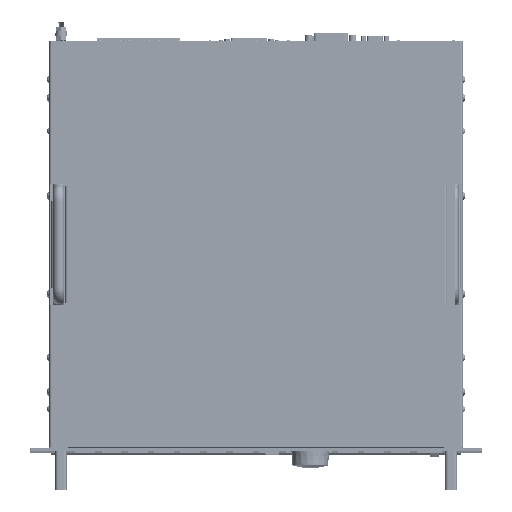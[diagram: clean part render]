
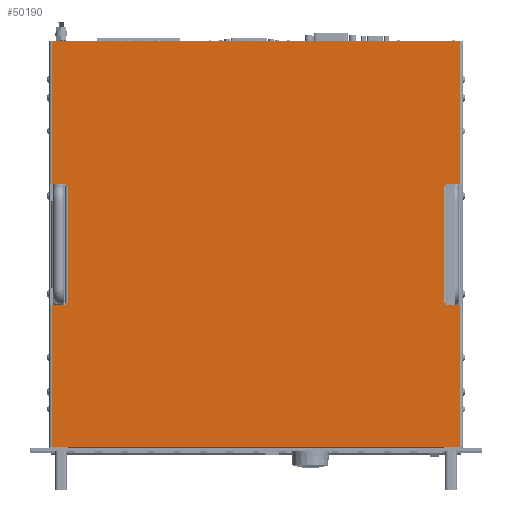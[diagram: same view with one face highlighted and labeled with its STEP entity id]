
A CAD part, top view. The second image highlights one B-rep face of the part: STEP entity #50190.
In plain terms, the highlighted planar face has unit normal (0, 0, 1).
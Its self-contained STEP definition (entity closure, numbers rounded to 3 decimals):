
#50190=ADVANCED_FACE('',(#113177),#113178,.F.);
#113177=FACE_OUTER_BOUND('',#220540,.T.);
#113178=PLANE('',#220541);
#220540=EDGE_LOOP('',(#364750,#364751,#364752,#364753,#364754,#364755,#364756,#364757,#364758,#364759,#364760,#364761,#364762,#364763,#364764,#364765,#364766,#364767,#364768,#364769));
#220541=AXIS2_PLACEMENT_3D('',#364770,#364771,#364772);
#364750=ORIENTED_EDGE('',*,*,#522827,.T.);
#364751=ORIENTED_EDGE('',*,*,#522847,.F.);
#364752=ORIENTED_EDGE('',*,*,#522848,.F.);
#364753=ORIENTED_EDGE('',*,*,#522491,.F.);
#364754=ORIENTED_EDGE('',*,*,#522813,.F.);
#364755=ORIENTED_EDGE('',*,*,#522476,.F.);
#364756=ORIENTED_EDGE('',*,*,#522802,.F.);
#364757=ORIENTED_EDGE('',*,*,#522849,.F.);
#364758=ORIENTED_EDGE('',*,*,#522845,.T.);
#364759=ORIENTED_EDGE('',*,*,#522840,.F.);
#364760=ORIENTED_EDGE('',*,*,#522837,.T.);
#364761=ORIENTED_EDGE('',*,*,#522850,.F.);
#364762=ORIENTED_EDGE('',*,*,#522778,.F.);
#364763=ORIENTED_EDGE('',*,*,#522466,.F.);
#364764=ORIENTED_EDGE('',*,*,#522767,.F.);
#364765=ORIENTED_EDGE('',*,*,#522486,.F.);
#364766=ORIENTED_EDGE('',*,*,#522851,.F.);
#364767=ORIENTED_EDGE('',*,*,#522852,.F.);
#364768=ORIENTED_EDGE('',*,*,#522824,.T.);
#364769=ORIENTED_EDGE('',*,*,#522832,.T.);
#364770=CARTESIAN_POINT('',(241.3,405.265,814.604));
#364771=DIRECTION('',(0.,0.,-1.0));
#364772=DIRECTION('',(1.0,0.,0.));
#522466=EDGE_CURVE('',#626515,#626517,#626518,.T.);
#522476=EDGE_CURVE('',#626533,#626535,#626536,.T.);
#522486=EDGE_CURVE('',#626551,#626553,#626554,.T.);
#522491=EDGE_CURVE('',#626560,#626562,#626563,.T.);
#522767=EDGE_CURVE('',#626553,#626515,#626993,.T.);
#522778=EDGE_CURVE('',#626517,#627008,#627009,.T.);
#522802=EDGE_CURVE('',#627041,#626533,#627043,.T.);
#522813=EDGE_CURVE('',#626535,#626560,#627058,.T.);
#522824=EDGE_CURVE('',#627069,#627072,#627074,.T.);
#522827=EDGE_CURVE('',#627079,#627076,#627080,.T.);
#522832=EDGE_CURVE('',#627072,#627079,#627085,.T.);
#522837=EDGE_CURVE('',#627091,#627089,#627092,.T.);
#522840=EDGE_CURVE('',#627091,#627095,#627096,.T.);
#522845=EDGE_CURVE('',#627101,#627095,#627103,.T.);
#522847=EDGE_CURVE('',#627105,#627076,#627106,.T.);
#522848=EDGE_CURVE('',#626562,#627105,#627107,.T.);
#522849=EDGE_CURVE('',#627101,#627041,#627108,.T.);
#522850=EDGE_CURVE('',#627008,#627089,#627109,.T.);
#522851=EDGE_CURVE('',#627110,#626551,#627111,.T.);
#522852=EDGE_CURVE('',#627069,#627110,#627112,.T.);
#626515=VERTEX_POINT('',#778112);
#626517=VERTEX_POINT('',#778114);
#626518=LINE('',#778115,#778116);
#626533=VERTEX_POINT('',#778134);
#626535=VERTEX_POINT('',#778136);
#626536=LINE('',#778137,#778138);
#626551=VERTEX_POINT('',#778156);
#626553=VERTEX_POINT('',#778158);
#626554=LINE('',#778159,#778160);
#626560=VERTEX_POINT('',#778167);
#626562=VERTEX_POINT('',#778169);
#626563=LINE('',#778170,#778171);
#626993=LINE('',#778722,#778723);
#627008=VERTEX_POINT('',#778743);
#627009=LINE('',#778744,#778745);
#627041=VERTEX_POINT('',#778791);
#627043=LINE('',#778794,#778795);
#627058=LINE('',#778815,#778816);
#627069=VERTEX_POINT('',#778831);
#627072=VERTEX_POINT('',#778835);
#627074=LINE('',#778837,#778838);
#627076=VERTEX_POINT('',#778840);
#627079=VERTEX_POINT('',#778844);
#627080=LINE('',#778845,#778846);
#627085=LINE('',#778851,#778852);
#627089=VERTEX_POINT('',#778857);
#627091=VERTEX_POINT('',#778860);
#627092=LINE('',#778861,#778862);
#627095=VERTEX_POINT('',#778865);
#627096=LINE('',#778866,#778867);
#627101=VERTEX_POINT('',#778872);
#627103=LINE('',#778875,#778876);
#627105=VERTEX_POINT('',#778878);
#627106=LINE('',#778879,#778880);
#627107=LINE('',#778881,#778882);
#627108=LINE('',#778883,#778884);
#627109=LINE('',#778885,#778886);
#627110=VERTEX_POINT('',#778887);
#627111=LINE('',#778888,#778889);
#627112=LINE('',#778890,#778891);
#778112=CARTESIAN_POINT('',(23.623,188.64,814.604));
#778114=CARTESIAN_POINT('',(23.623,340.64,814.604));
#778115=CARTESIAN_POINT('',(23.623,334.953,814.604));
#778116=VECTOR('',#911577,1.0);
#778134=CARTESIAN_POINT('',(23.623,469.89,814.604));
#778136=CARTESIAN_POINT('',(23.623,621.89,814.604));
#778137=CARTESIAN_POINT('',(23.623,475.578,814.604));
#778138=VECTOR('',#911593,1.0);
#778156=CARTESIAN_POINT('',(458.977,340.64,814.604));
#778158=CARTESIAN_POINT('',(458.977,188.64,814.604));
#778159=CARTESIAN_POINT('',(458.977,334.953,814.604));
#778160=VECTOR('',#911609,1.0);
#778167=CARTESIAN_POINT('',(458.977,621.89,814.604));
#778169=CARTESIAN_POINT('',(458.977,469.89,814.604));
#778170=CARTESIAN_POINT('',(458.977,475.578,814.604));
#778171=VECTOR('',#911617,1.0);
#778722=CARTESIAN_POINT('',(461.727,188.64,814.604));
#778723=VECTOR('',#912003,1.0);
#778743=CARTESIAN_POINT('',(38.873,340.64,814.604));
#778744=CARTESIAN_POINT('',(20.873,340.64,814.604));
#778745=VECTOR('',#912021,1.0);
#778791=CARTESIAN_POINT('',(38.873,469.89,814.604));
#778794=CARTESIAN_POINT('',(38.873,469.89,814.604));
#778795=VECTOR('',#912049,1.0);
#778815=CARTESIAN_POINT('',(20.873,621.89,814.604));
#778816=VECTOR('',#912067,1.0);
#778831=CARTESIAN_POINT('',(443.727,342.64,814.604));
#778835=CARTESIAN_POINT('',(441.977,342.64,814.604));
#778837=CARTESIAN_POINT('',(342.593,342.64,814.604));
#778838=VECTOR('',#912079,1.0);
#778840=CARTESIAN_POINT('',(443.727,467.89,814.604));
#778844=CARTESIAN_POINT('',(441.977,467.89,814.604));
#778845=CARTESIAN_POINT('',(342.593,467.89,814.604));
#778846=VECTOR('',#912081,1.0);
#778851=CARTESIAN_POINT('',(441.977,405.265,814.604));
#778852=VECTOR('',#912091,1.0);
#778857=CARTESIAN_POINT('',(38.873,342.64,814.604));
#778860=CARTESIAN_POINT('',(40.623,342.64,814.604));
#778861=CARTESIAN_POINT('',(140.007,342.64,814.604));
#778862=VECTOR('',#912094,1.0);
#778865=CARTESIAN_POINT('',(40.623,467.89,814.604));
#778866=CARTESIAN_POINT('',(40.623,405.265,814.604));
#778867=VECTOR('',#912098,1.0);
#778872=CARTESIAN_POINT('',(38.873,467.89,814.604));
#778875=CARTESIAN_POINT('',(140.007,467.89,814.604));
#778876=VECTOR('',#912106,1.0);
#778878=CARTESIAN_POINT('',(443.727,469.89,814.604));
#778879=CARTESIAN_POINT('',(443.727,469.89,814.604));
#778880=VECTOR('',#912107,1.0);
#778881=CARTESIAN_POINT('',(461.727,469.89,814.604));
#778882=VECTOR('',#912108,1.0);
#778883=CARTESIAN_POINT('',(38.873,467.89,814.604));
#778884=VECTOR('',#912109,1.0);
#778885=CARTESIAN_POINT('',(38.873,340.64,814.604));
#778886=VECTOR('',#912110,1.0);
#778887=CARTESIAN_POINT('',(443.727,340.64,814.604));
#778888=CARTESIAN_POINT('',(443.727,340.64,814.604));
#778889=VECTOR('',#912111,1.0);
#778890=CARTESIAN_POINT('',(443.727,342.64,814.604));
#778891=VECTOR('',#912112,1.0);
#911577=DIRECTION('',(0.0,1.0,0.0));
#911593=DIRECTION('',(0.0,1.0,0.0));
#911609=DIRECTION('',(0.0,-1.0,0.0));
#911617=DIRECTION('',(0.0,-1.0,0.0));
#912003=DIRECTION('',(-1.0,0.0,0.0));
#912021=DIRECTION('',(1.0,0.0,0.0));
#912049=DIRECTION('',(-1.0,0.0,0.0));
#912067=DIRECTION('',(1.0,0.0,0.0));
#912079=DIRECTION('',(-1.0,0.0,0.0));
#912081=DIRECTION('',(1.0,0.0,0.0));
#912091=DIRECTION('',(0.0,1.0,0.0));
#912094=DIRECTION('',(-1.0,0.0,0.0));
#912098=DIRECTION('',(0.0,1.0,0.0));
#912106=DIRECTION('',(1.0,0.0,0.0));
#912107=DIRECTION('',(0.0,-1.0,0.0));
#912108=DIRECTION('',(-1.0,0.0,0.0));
#912109=DIRECTION('',(0.0,1.0,0.0));
#912110=DIRECTION('',(0.0,1.0,0.0));
#912111=DIRECTION('',(1.0,0.0,0.0));
#912112=DIRECTION('',(0.0,-1.0,0.0));
